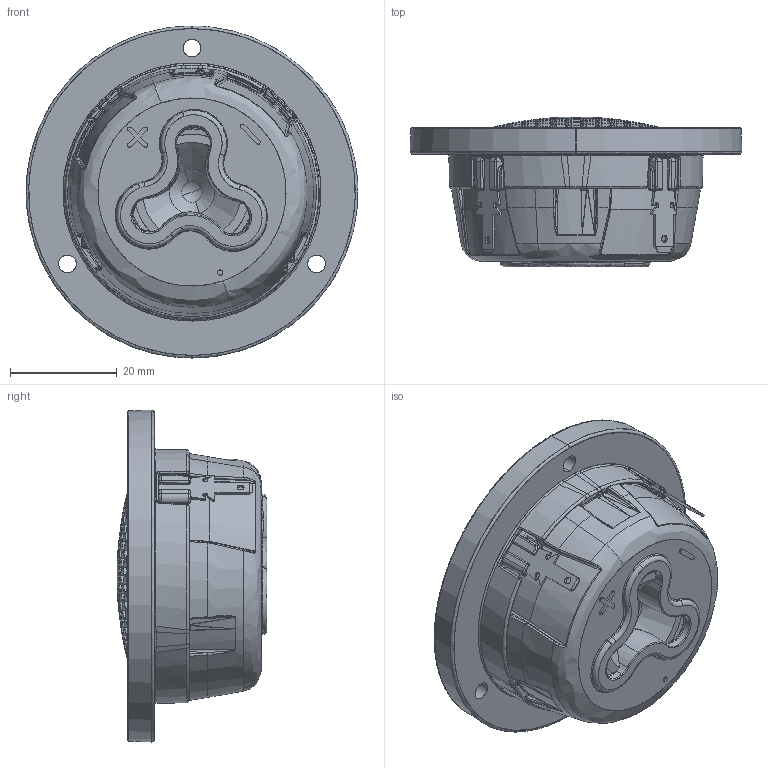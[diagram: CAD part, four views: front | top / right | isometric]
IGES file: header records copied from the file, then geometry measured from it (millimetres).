
Start section: SolidWorks IGES file using analytic representation for surfaces
Global section: file name: W:\TT\WEB 3D ENHEDER VER2\D3004_606005\D3004-606005.IGS; native system: SolidWorks 2024; preprocessor: SolidWorks 2024; author: jsn; date: 241030.102122; units: millimetre
Bounding box: 62.21 x 28.08 x 62.21 mm (x, y, z)
Surface area: 14732.4 mm2 (no closed solid volume)
Topology: 0 solids, 0 shells, 2148 faces, 17144 edges, 17118 vertices
Faces by surface type: bspline 1662, revolution 486
